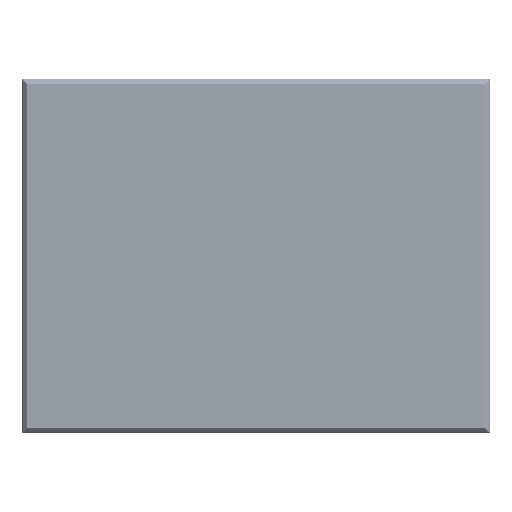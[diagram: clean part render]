
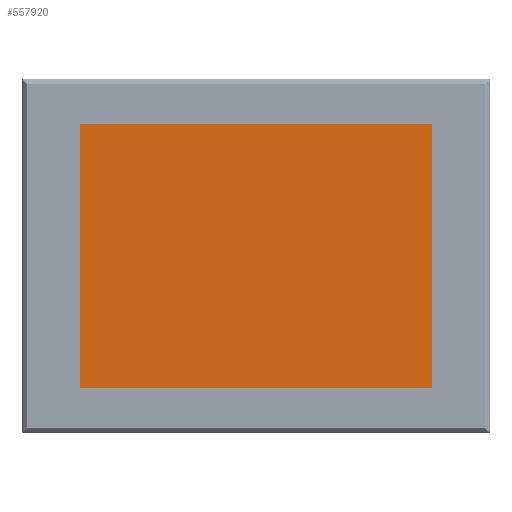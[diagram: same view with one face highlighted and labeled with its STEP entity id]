
A CAD part, top view. The second image highlights one B-rep face of the part: STEP entity #557920.
In plain terms, the highlighted planar face has unit normal (0, 0, 1).
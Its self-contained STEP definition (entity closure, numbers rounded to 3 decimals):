
#21040 = VECTOR ( 'NONE', #268538, 1000. ) ;
#54460 = DIRECTION ( 'NONE',  ( 1., 0., 0. ) ) ;
#55935 = ORIENTED_EDGE ( 'NONE', *, *, #704709, .T. ) ;
#65179 = VECTOR ( 'NONE', #452495, 1000. ) ;
#94806 = VERTEX_POINT ( 'NONE', #517534 ) ;
#96397 = CARTESIAN_POINT ( 'NONE',  ( 123.75, 93., 0.138 ) ) ;
#127241 = ORIENTED_EDGE ( 'NONE', *, *, #711197, .T. ) ;
#155073 = LINE ( 'NONE', #546767, #21040 ) ;
#165691 = VERTEX_POINT ( 'NONE', #293656 ) ;
#173582 = EDGE_LOOP ( 'NONE', ( #197233, #127241, #305631, #55935 ) ) ;
#197233 = ORIENTED_EDGE ( 'NONE', *, *, #716520, .T. ) ;
#207432 = VERTEX_POINT ( 'NONE', #560191 ) ;
#228811 = VECTOR ( 'NONE', #690161, 1000. ) ;
#229252 = LINE ( 'NONE', #332087, #65179 ) ;
#268538 = DIRECTION ( 'NONE',  ( 0., 1., 0. ) ) ;
#270678 = CARTESIAN_POINT ( 'NONE',  ( 0., 0., 0.138 ) ) ;
#293656 = CARTESIAN_POINT ( 'NONE',  ( -123.75, -93., 0.138 ) ) ;
#305631 = ORIENTED_EDGE ( 'NONE', *, *, #522623, .T. ) ;
#332087 = CARTESIAN_POINT ( 'NONE',  ( -123.75, 93., 0.138 ) ) ;
#367076 = CARTESIAN_POINT ( 'NONE',  ( 123.75, 93., 0.138 ) ) ;
#420959 = AXIS2_PLACEMENT_3D ( 'NONE', #270678, #493842, #54460 ) ;
#428147 = FACE_OUTER_BOUND ( 'NONE', #173582, .T. ) ;
#448504 = VECTOR ( 'NONE', #663598, 1000. ) ;
#452495 = DIRECTION ( 'NONE',  ( 0., -1., 0. ) ) ;
#466642 = LINE ( 'NONE', #635256, #228811 ) ;
#493842 = DIRECTION ( 'NONE',  ( 0., 0., 1. ) ) ;
#495049 = LINE ( 'NONE', #96397, #448504 ) ;
#517534 = CARTESIAN_POINT ( 'NONE',  ( -123.75, 93., 0.138 ) ) ;
#522623 = EDGE_CURVE ( 'NONE', #94806, #165691, #229252, .T. ) ;
#546767 = CARTESIAN_POINT ( 'NONE',  ( 123.75, -93., 0.138 ) ) ;
#557920 = ADVANCED_FACE ( 'NONE', ( #428147 ), #713724, .T. ) ;
#560191 = CARTESIAN_POINT ( 'NONE',  ( 123.75, -93., 0.138 ) ) ;
#626723 = VERTEX_POINT ( 'NONE', #367076 ) ;
#635256 = CARTESIAN_POINT ( 'NONE',  ( -123.75, -93., 0.138 ) ) ;
#663598 = DIRECTION ( 'NONE',  ( -1., 0., 0. ) ) ;
#690161 = DIRECTION ( 'NONE',  ( 1., 0., 0. ) ) ;
#704709 = EDGE_CURVE ( 'NONE', #165691, #207432, #466642, .T. ) ;
#711197 = EDGE_CURVE ( 'NONE', #626723, #94806, #495049, .T. ) ;
#713724 = PLANE ( 'NONE',  #420959 ) ;
#716520 = EDGE_CURVE ( 'NONE', #207432, #626723, #155073, .T. ) ;
